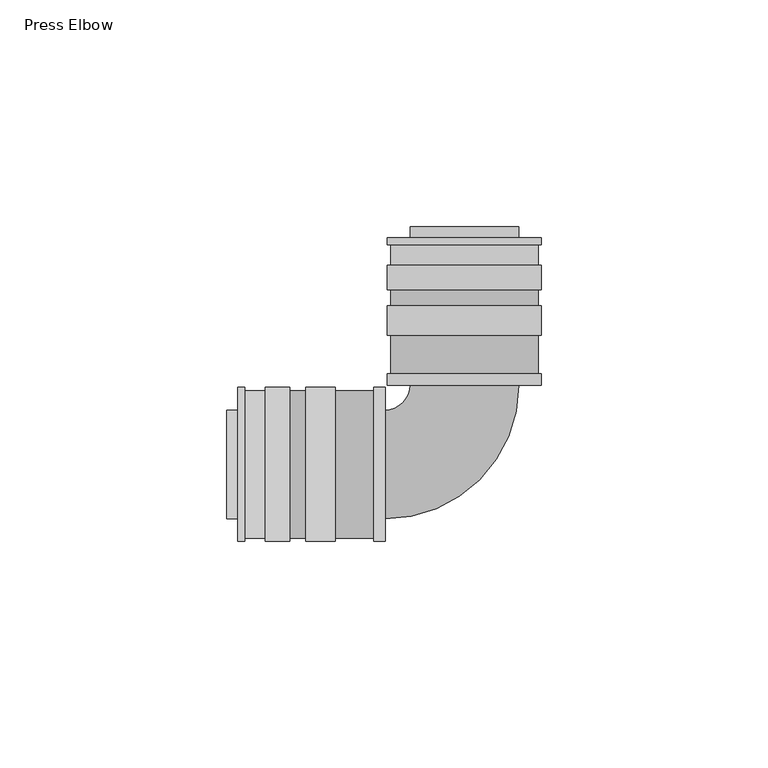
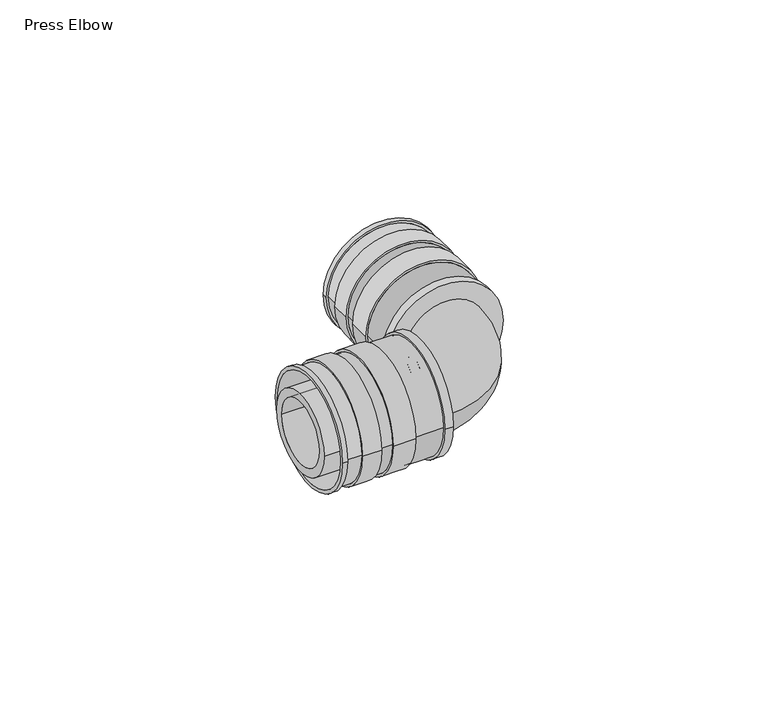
"""IFC4 building model written with IfcOpenShell, lengths in millimetres: pipe fitting geometry, Press Elbow : Superpipe Press Elbow."""

import ifcopenshell
import ifcopenshell.guid

model = None  # the IFC model being written
_history = None  # IfcOwnerHistory: only IFC2X3 demands one
_inside = {}  # id of a spatial element -> (the spatial element, [elements in it])
_under = {}  # id of a project, library or spatial element -> (it, [spatial elements below it])
_declared = {}  # id of a project -> (the project, [libraries it declares])
_typed = {}  # id of a type object -> (the type object, [elements of that type])
_made_of = {}  # id of a material, layer set ... -> (it, [elements and type objects made of it])


def new_model(schema):
    """Start an empty IFC model of exactly this schema.

    Asked for "IFC4X3", IfcOpenShell would pick the latest addendum, in which some entities
    have other attributes; the version numbers below select the first issue.
    IFC2X3 requires an IfcOwnerHistory on every rooted entity: one is made here for all.
    """
    global model, _history
    if schema == "IFC4X3":
        model = ifcopenshell.file(schema_version=(4, 3, 0, 0))
    else:
        model = ifcopenshell.file(schema=schema)
    _inside.clear()
    _under.clear()
    _declared.clear()
    _typed.clear()
    _made_of.clear()
    _history = None
    if model.schema == "IFC2X3":
        org = make("IfcOrganization", Name="unknown")
        user = make(
            "IfcPersonAndOrganization",
            ThePerson=make("IfcPerson", FamilyName="unknown"),
            TheOrganization=org,
        )
        app = make(
            "IfcApplication",
            ApplicationDeveloper=org,
            Version="unknown",
            ApplicationFullName="unknown",
            ApplicationIdentifier="unknown",
        )
        _history = make(
            "IfcOwnerHistory",
            OwningUser=user,
            OwningApplication=app,
            ChangeAction="ADDED",
            CreationDate=0,
        )
    return model


def make(cls, **values):
    """One entity of the class cls with the attributes given. An attribute that is None is left unset."""
    return model.create_entity(
        cls, **{name: value for name, value in values.items() if value is not None}
    )


def rooted(cls, **values):
    """An entity with a GlobalId (a new one), such as an element, a storey or a relation."""
    return make(cls, GlobalId=ifcopenshell.guid.new(), OwnerHistory=_history, **values)


def si_unit(unit_type, name, prefix=None):
    """IfcSIUnit, for example si_unit("LENGTHUNIT", "METRE", prefix="MILLI")."""
    return make("IfcSIUnit", UnitType=unit_type, Prefix=prefix, Name=name)


def assignment(units):
    """IfcUnitAssignment: the units of a project."""
    return None if units is None else make("IfcUnitAssignment", Units=units)


def point(xyz):
    """IfcCartesianPoint."""
    return None if xyz is None else make("IfcCartesianPoint", Coordinates=xyz)


def direction(xyz):
    """IfcDirection."""
    return None if xyz is None else make("IfcDirection", DirectionRatios=xyz)


def frame(location, z_axis=None, x_axis=None):
    """IfcAxis2Placement3D, a coordinate frame: its origin and axes. An axis left out is left unset."""
    return make(
        "IfcAxis2Placement3D",
        Location=point(location),
        Axis=direction(z_axis),
        RefDirection=direction(x_axis),
    )


def frame_2d(location, x_axis=None):
    """IfcAxis2Placement2D, a coordinate frame in the plane: its origin and x axis."""
    return make(
        "IfcAxis2Placement2D", Location=point(location), RefDirection=direction(x_axis)
    )


def origin():
    """The frame at (0, 0, 0) with its axes left unset."""
    return frame((0.0, 0.0, 0.0))


def origin_2d():
    """The frame at (0, 0) in the plane with its x axis left unset."""
    return frame_2d((0.0, 0.0))


def place(relative_to, where):
    """IfcLocalPlacement: puts the frame where relative to a parent placement (None: the world)."""
    return make(
        "IfcLocalPlacement", PlacementRelTo=relative_to, RelativePlacement=where
    )


def context(
    kind, dimensions, precision=None, world=None, true_north=None, identifier=None
):
    """IfcGeometricRepresentationContext, for example the 3D "Model" context."""
    return make(
        "IfcGeometricRepresentationContext",
        ContextIdentifier=identifier,
        ContextType=kind,
        CoordinateSpaceDimension=dimensions,
        Precision=precision,
        WorldCoordinateSystem=world,
        TrueNorth=true_north,
    )


def project(units=None, contexts=None):
    """IfcProject with its units and contexts."""
    return rooted(
        "IfcProject",
        Name="project",
        RepresentationContexts=contexts,
        UnitsInContext=assignment(units),
    )


def spatial(cls, under=None, at=None, **own):
    """A site, building, storey or space (cls), placed at a placement, below another one or the project."""
    s = rooted(cls, ObjectPlacement=at, **own)
    if under is not None:
        _under.setdefault(under.id(), (under, []))[1].append(s)
    return s


def polyline(points):
    """IfcPolyline through the points."""
    return make("IfcPolyline", Points=[point(p) for p in points])


def circle_curve(where, radius):
    """IfcCircle in the frame where."""
    return make("IfcCircle", Position=where, Radius=radius)


def ellipse_curve(where, semi_axis1, semi_axis2):
    """IfcEllipse in the frame where."""
    return make(
        "IfcEllipse", Position=where, SemiAxis1=semi_axis1, SemiAxis2=semi_axis2
    )


def trimmed(basis, trim1, trim2, sense, master):
    """IfcTrimmedCurve: the piece of a basis curve between two trims."""
    return make(
        "IfcTrimmedCurve",
        BasisCurve=basis,
        Trim1=trim1,
        Trim2=trim2,
        SenseAgreement=sense,
        MasterRepresentation=master,
    )


def segment(curve, same_sense, transition):
    """IfcCompositeCurveSegment."""
    return make(
        "IfcCompositeCurveSegment",
        Transition=transition,
        SameSense=same_sense,
        ParentCurve=curve,
    )


def composite_curve(segments, self_intersect=None):
    """IfcCompositeCurve: segments joined end to end."""
    return make("IfcCompositeCurve", Segments=segments, SelfIntersect=self_intersect)


def outline(outer, holes=None, kind="AREA"):
    """IfcArbitraryClosedProfileDef: a profile drawn as a closed curve; with holes, ...WithVoids."""
    if holes is None:
        return make("IfcArbitraryClosedProfileDef", ProfileType=kind, OuterCurve=outer)
    return make(
        "IfcArbitraryProfileDefWithVoids",
        ProfileType=kind,
        OuterCurve=outer,
        InnerCurves=holes,
    )


def extrude(swept, where, along, depth):
    """IfcExtrudedAreaSolid: the profile swept, set in the frame where, extruded along a direction by depth."""
    return make(
        "IfcExtrudedAreaSolid",
        SweptArea=swept,
        Position=where,
        ExtrudedDirection=direction(along),
        Depth=depth,
    )


def shape(context_of_items, identifier, shape_type, items):
    """IfcShapeRepresentation: the items that make up one representation, for example the "Body"."""
    return make(
        "IfcShapeRepresentation",
        ContextOfItems=context_of_items,
        RepresentationIdentifier=identifier,
        RepresentationType=shape_type,
        Items=items,
    )


def source(mapping_origin, context_of_items, identifier, shape_type, items):
    """IfcRepresentationMap: a shape defined once, which mapped items show again and again."""
    return make(
        "IfcRepresentationMap",
        MappingOrigin=mapping_origin,
        MappedRepresentation=shape(context_of_items, identifier, shape_type, items),
    )


def transform(
    local_origin,
    x_axis=None,
    y_axis=None,
    z_axis=None,
    scale=None,
    scale2=None,
    scale3=None,
    uniform=True,
):
    """IfcCartesianTransformationOperator3D, or its non-uniform kind. x_axis, y_axis, z_axis: its Axis1, 2, 3."""
    if uniform:
        return make(
            "IfcCartesianTransformationOperator3D",
            Axis1=direction(x_axis),
            Axis2=direction(y_axis),
            LocalOrigin=point(local_origin),
            Scale=scale,
            Axis3=direction(z_axis),
        )
    return make(
        "IfcCartesianTransformationOperator3DnonUniform",
        Axis1=direction(x_axis),
        Axis2=direction(y_axis),
        LocalOrigin=point(local_origin),
        Scale=scale,
        Axis3=direction(z_axis),
        Scale2=scale2,
        Scale3=scale3,
    )


def mapped(mapping_source, mapping_target):
    """IfcMappedItem: shows the shape of a source again, moved by a transform."""
    return make(
        "IfcMappedItem", MappingSource=mapping_source, MappingTarget=mapping_target
    )


def made_of(thing, what):
    """Note that an element or type object is made of a material, layer set ...; save() writes the relation."""
    if what is not None:
        _made_of.setdefault(what.id(), (what, []))[1].append(thing)
    return thing


def element(
    cls,
    number,
    at=None,
    inside=None,
    cuts=None,
    type_object=None,
    material=None,
    context=None,
    identifier="Body",
    shape_type=None,
    held_by="IfcProductDefinitionShape",
    body=None,
    shapes=None,
    **own,
):
    """One element of the class cls, such as IfcWall. Its Tag is "e" and its number.

    at: its placement. inside: the storey or other place that contains it. cuts: it is an
    opening in that element (IfcRelVoidsElement). A single representation is given by context,
    identifier, shape_type and body (its items); several are given by shapes. held_by: the class
    of the entity that holds the representations. save() writes the other relations.
    """
    e = rooted(cls, Tag="e%d" % number, ObjectPlacement=at, **own)
    if body is not None:
        shapes = [shape(context, identifier, shape_type, body)]
    if shapes is not None:
        e.Representation = make(held_by, Representations=shapes)
    if inside is not None:
        _inside.setdefault(inside.id(), (inside, []))[1].append(e)
    if cuts is not None:
        rooted(
            "IfcRelVoidsElement", RelatingBuildingElement=cuts, RelatedOpeningElement=e
        )
    if type_object is not None:
        _typed.setdefault(type_object.id(), (type_object, []))[1].append(e)
    return made_of(e, material)


def aggregate(whole, parts):
    """IfcRelAggregates: a whole, such as a stair, and the parts it consists of."""
    return rooted("IfcRelAggregates", RelatingObject=whole, RelatedObjects=parts)


def save(model, path):
    """Write the relations noted so far, then the file.

    IfcRelAggregates (storeys below a building ...), IfcRelContainedInSpatialStructure (elements
    in a storey), IfcRelDefinesByType, IfcRelAssociatesMaterial and IfcRelDeclares: one each for
    every whole, place, type object, material and project.
    """
    for whole, parts in _under.values():
        aggregate(whole, parts)
    for where, things in _inside.values():
        rooted(
            "IfcRelContainedInSpatialStructure",
            RelatedElements=things,
            RelatingStructure=where,
        )
    for kind, things in _typed.values():
        rooted("IfcRelDefinesByType", RelatedObjects=things, RelatingType=kind)
    for what, things in _made_of.values():
        rooted("IfcRelAssociatesMaterial", RelatedObjects=things, RelatingMaterial=what)
    for by, libraries in _declared.values():
        rooted("IfcRelDeclares", RelatingContext=by, RelatedDefinitions=libraries)
    model.write(path)


def plane_surface(at):
    """IfcPlane: the flat surface through the origin of the frame at, square to its z axis."""
    return make("IfcPlane", Position=at)


def cylinder_surface(at, radius):
    """IfcCylindricalSurface: all points at the distance radius from the z axis of the frame at."""
    return make("IfcCylindricalSurface", Position=at, Radius=radius)


def revolved_surface(curve, axis_point, axis_direction):
    """IfcSurfaceOfRevolution: the curve turned about the line through axis_point along axis_direction."""
    return make(
        "IfcSurfaceOfRevolution",
        SweptCurve=make("IfcArbitraryOpenProfileDef", ProfileType="CURVE", Curve=curve),
        AxisPosition=make("IfcAxis1Placement", Location=point(axis_point), Axis=direction(axis_direction)),
    )


def advanced_brep(points, edges, surfaces, faces):
    """IfcAdvancedBrep: a solid bounded by faces that lie on surfaces and meet in shared edges.

    An edge is (start, end): straight between two places in points (the first is 0);
    or (start, end, curve); or (start, end, curve, False) where it runs against its curve.
    A face is (place in surfaces, loops), or (place, loops, False) where it looks against
    its surface's normal. A loop lists edges by number (the first is 1), with a minus sign
    where the edge is run from its end to its start. The first loop is the outer one.
    """
    corners = [point(p) for p in points]
    vertices = [make("IfcVertexPoint", VertexGeometry=c) for c in corners]
    made = []
    for start, end, *more in edges:
        made.append(
            make(
                "IfcEdgeCurve",
                EdgeStart=vertices[start],
                EdgeEnd=vertices[end],
                EdgeGeometry=more[0] if more else make("IfcPolyline", Points=[corners[start], corners[end]]),
                SameSense=more[1] if len(more) > 1 else True,
            )
        )
    hull = []
    for where, loops, *sense in faces:
        bounds = []
        for j, loop in enumerate(loops):
            ring = [make("IfcOrientedEdge", EdgeElement=made[abs(k) - 1], Orientation=k > 0) for k in loop]
            bounds.append(
                make(
                    "IfcFaceOuterBound" if j == 0 else "IfcFaceBound",
                    Bound=make("IfcEdgeLoop", EdgeList=ring),
                    Orientation=True,
                )
            )
        hull.append(make("IfcAdvancedFace", Bounds=bounds, FaceSurface=surfaces[where], SameSense=sense[0] if sense else True))
    return make("IfcAdvancedBrep", Outer=make("IfcClosedShell", CfsFaces=hull))


def press_elbow_a54f810e(model_context):
    return source(origin(), model_context, "Body", "SolidModel", [
        advanced_brep(
        [(-16.3, 20.0, 0.0), (16.3, 20.0, 0.0), (16.0, 20.0, 0.0), (-16.0, 20.0, 0.0), (17.0, 50.0, 0.0), (-17.0, 50.0, 0.0), (16.0, 50.0, 0.0), (-16.0, 50.0, 0.0), (17.0, 48.5, 0.0), (-17.0, 48.5, 0.0), (17.0, 28.5, 0.0), (-17.0, 28.5, 0.0), (-17.0, 35.0, 0.0), (17.0, 35.0, 0.0), (17.0, 38.5, 0.0), (-17.0, 38.5, 0.0), (-17.0, 44.0, 0.0), (17.0, 44.0, 0.0), (16.3, 28.5, 0.0), (-16.3, 28.5, 0.0), (16.3, 35.0, 0.0), (-16.3, 35.0, 0.0), (16.3, 38.5, 0.0), (-16.3, 38.5, 0.0), (-16.3, 48.5, 0.0), (16.3, 48.5, 0.0), (-16.3, 44.0, 0.0), (16.3, 44.0, 0.0)],
        [
            (0, 1, circle_curve(frame((0.0, 20.0, 0.0), z_axis=(0.0, -1.0, 0.0), x_axis=(-1.0, 0.0, 0.0)), 16.3)),
            (1, 0, circle_curve(frame((0.0, 20.0, 0.0), z_axis=(0.0, -1.0, 0.0), x_axis=(-1.0, 0.0, 0.0)), 16.3)),
            (2, 3, circle_curve(frame((0.0, 20.0, 0.0), z_axis=(0.0, 1.0, 0.0), x_axis=(-1.0, 0.0, 0.0)), 16.0)),
            (3, 2, circle_curve(frame((0.0, 20.0, 0.0), z_axis=(0.0, 1.0, 0.0), x_axis=(-1.0, 0.0, 0.0)), 16.0)),
            (4, 5, circle_curve(frame((0.0, 50.0, 0.0), z_axis=(0.0, 1.0, 0.0), x_axis=(-1.0, 0.0, 0.0)), 17.0)),
            (5, 4, circle_curve(frame((0.0, 50.0, 0.0), z_axis=(0.0, 1.0, 0.0), x_axis=(-1.0, 0.0, 0.0)), 17.0)),
            (6, 7, circle_curve(frame((0.0, 50.0, 0.0), z_axis=(0.0, -1.0, 0.0), x_axis=(-1.0, 0.0, 0.0)), 16.0)),
            (7, 6, circle_curve(frame((0.0, 50.0, 0.0), z_axis=(0.0, -1.0, 0.0), x_axis=(-1.0, 0.0, 0.0)), 16.0)),
            (4, 8),
            (8, 9, circle_curve(frame((0.0, 48.5, 0.0), z_axis=(0.0, 1.0, 0.0), x_axis=(-1.0, 0.0, 0.0)), 17.0)),
            (9, 5),
            (10, 11, circle_curve(frame((0.0, 28.5, 0.0), z_axis=(0.0, 1.0, 0.0), x_axis=(-1.0, 0.0, 0.0)), 17.0)),
            (11, 12),
            (12, 13, circle_curve(frame((0.0, 35.0, 0.0), z_axis=(0.0, -1.0, 0.0), x_axis=(-1.0, 0.0, 0.0)), 17.0)),
            (13, 10),
            (14, 15, circle_curve(frame((0.0, 38.5, 0.0), z_axis=(0.0, 1.0, 0.0), x_axis=(-1.0, 0.0, 0.0)), 17.0)),
            (15, 16),
            (16, 17, circle_curve(frame((0.0, 44.0, 0.0), z_axis=(0.0, -1.0, 0.0), x_axis=(-1.0, 0.0, 0.0)), 17.0)),
            (17, 14),
            (9, 8, circle_curve(frame((0.0, 48.5, 0.0), z_axis=(0.0, 1.0, 0.0), x_axis=(-1.0, 0.0, 0.0)), 17.0)),
            (11, 10, circle_curve(frame((0.0, 28.5, 0.0), z_axis=(0.0, 1.0, 0.0), x_axis=(-1.0, 0.0, 0.0)), 17.0)),
            (13, 12, circle_curve(frame((0.0, 35.0, 0.0), z_axis=(0.0, -1.0, 0.0), x_axis=(-1.0, 0.0, 0.0)), 17.0)),
            (15, 14, circle_curve(frame((0.0, 38.5, 0.0), z_axis=(0.0, 1.0, 0.0), x_axis=(-1.0, 0.0, 0.0)), 17.0)),
            (17, 16, circle_curve(frame((0.0, 44.0, 0.0), z_axis=(0.0, -1.0, 0.0), x_axis=(-1.0, 0.0, 0.0)), 17.0)),
            (3, 7),
            (6, 2),
            (18, 19, circle_curve(frame((0.0, 28.5, 0.0), z_axis=(0.0, 1.0, 0.0), x_axis=(-1.0, 0.0, 0.0)), 16.3)),
            (19, 18, circle_curve(frame((0.0, 28.5, 0.0), z_axis=(0.0, 1.0, 0.0), x_axis=(-1.0, 0.0, 0.0)), 16.3)),
            (18, 1),
            (0, 19),
            (20, 21, circle_curve(frame((0.0, 35.0, 0.0), z_axis=(0.0, -1.0, 0.0), x_axis=(-1.0, 0.0, 0.0)), 16.3)),
            (21, 20, circle_curve(frame((0.0, 35.0, 0.0), z_axis=(0.0, -1.0, 0.0), x_axis=(-1.0, 0.0, 0.0)), 16.3)),
            (22, 23, circle_curve(frame((0.0, 38.5, 0.0), z_axis=(0.0, 1.0, 0.0), x_axis=(-1.0, 0.0, 0.0)), 16.3)),
            (23, 22, circle_curve(frame((0.0, 38.5, 0.0), z_axis=(0.0, 1.0, 0.0), x_axis=(-1.0, 0.0, 0.0)), 16.3)),
            (21, 23),
            (22, 20),
            (24, 25, circle_curve(frame((0.0, 48.5, 0.0), z_axis=(0.0, 1.0, 0.0), x_axis=(1.0, 0.0, 0.0)), 16.3)),
            (25, 24, circle_curve(frame((0.0, 48.5, 0.0), z_axis=(0.0, 1.0, 0.0), x_axis=(1.0, 0.0, 0.0)), 16.3)),
            (26, 27, circle_curve(frame((0.0, 44.0, 0.0), z_axis=(0.0, -1.0, 0.0), x_axis=(1.0, 0.0, 0.0)), 16.3)),
            (27, 26, circle_curve(frame((0.0, 44.0, 0.0), z_axis=(0.0, -1.0, 0.0), x_axis=(1.0, 0.0, 0.0)), 16.3)),
            (25, 27),
            (26, 24),
        ],
        [
            plane_surface(frame((0.0, 20.0, 0.0), z_axis=(0.0, -1.0, 0.0), x_axis=(0.0, 0.0, 1.0))),
            plane_surface(frame((0.0, 50.0, 0.0), z_axis=(0.0, 1.0, 0.0), x_axis=(0.0, 0.0, 1.0))),
            cylinder_surface(frame((0.0, 20.0, 0.0), z_axis=(0.0, -1.0, 0.0), x_axis=(-1.0, 0.0, 0.0)), 17.0),
            revolved_surface(polyline([(-16.0, 50.0, 0.0), (-16.0, 20.0, 0.0)]), (0.0, 20.0, 0.0), (0.0, 1.0, 0.0)),
            plane_surface(frame((0.0, 28.5, 0.0), z_axis=(0.0, -1.0, 0.0), x_axis=(0.0, 0.0, 1.0))),
            cylinder_surface(frame((0.0, 20.0, 0.0), z_axis=(0.0, 1.0, 0.0), x_axis=(-1.0, 0.0, 0.0)), 16.3),
            plane_surface(frame((0.0, 35.0, 0.0), z_axis=(0.0, 1.0, 0.0), x_axis=(0.0, 0.0, 1.0))),
            plane_surface(frame((0.0, 38.5, 0.0), z_axis=(0.0, -1.0, 0.0), x_axis=(0.0, 0.0, 1.0))),
            cylinder_surface(frame((0.0, 35.0, 0.0), z_axis=(0.0, 1.0, 0.0), x_axis=(-1.0, 0.0, 0.0)), 16.3),
            plane_surface(frame((0.0, 48.5, 0.0), z_axis=(0.0, -1.0, 0.0), x_axis=(0.0, 0.0, 1.0))),
            plane_surface(frame((0.0, 44.0, 0.0), z_axis=(0.0, 1.0, 0.0), x_axis=(0.0, 0.0, 1.0))),
            cylinder_surface(frame((0.0, 48.5, 0.0), z_axis=(0.0, -1.0, 0.0), x_axis=(1.0, 0.0, 0.0)), 16.3),
        ],
        [
            (0, [[1, 2], [3, 4]]),
            (1, [[5, 6], [7, 8]]),
            (2, [[-5, 9, 10, 11]]),
            (2, [[12, 13, 14, 15]]),
            (2, [[16, 17, 18, 19]]),
            (2, [[-6, -11, 20, -9]]),
            (2, [[21, -15, 22, -13]]),
            (2, [[23, -19, 24, -17]]),
            (3, [[-4, 25, -7, 26]]),
            (3, [[-3, -26, -8, -25]]),
            (4, [[-12, -21], [27, 28]]),
            (5, [[-27, 29, -1, 30]]),
            (5, [[-28, -30, -2, -29]]),
            (6, [[-14, -22], [31, 32]]),
            (7, [[-16, -23], [33, 34]]),
            (8, [[-32, 35, -33, 36]]),
            (8, [[-31, -36, -34, -35]]),
            (9, [[-10, -20], [37, 38]]),
            (10, [[-18, -24], [39, 40]]),
            (11, [[-38, 41, -39, 42]]),
            (11, [[-37, -42, -40, -41]]),
        ],
    ),
        advanced_brep(
        [(-20.0, -16.3, 0.0), (-20.0, 16.3, 0.0), (-20.0, 16.0, 0.0), (-20.0, -16.0, 0.0), (-50.0, 17.0, 0.0), (-50.0, -17.0, 0.0), (-50.0, 16.0, 0.0), (-50.0, -16.0, 0.0), (-48.5, 17.0, 0.0), (-48.5, -17.0, 0.0), (-35.0, -17.0, 0.0), (-35.0, 17.0, 0.0), (-28.5, 17.0, 0.0), (-28.5, -17.0, 0.0), (-38.5, 17.0, 0.0), (-38.5, -17.0, 0.0), (-44.0, -17.0, 0.0), (-44.0, 17.0, 0.0), (-35.0, 16.3, 0.0), (-35.0, -16.3, 0.0), (-38.5, 16.3, 0.0), (-38.5, -16.3, 0.0), (-48.5, -16.3, 0.0), (-48.5, 16.3, 0.0), (-44.0, -16.3, 0.0), (-44.0, 16.3, 0.0), (-28.5, 16.3, 0.0), (-28.5, -16.3, 0.0)],
        [
            (0, 1, circle_curve(frame((-20.0, 0.0, 0.0), z_axis=(1.0, 0.0, 0.0), x_axis=(0.0, -1.0, 0.0)), 16.3)),
            (1, 0, circle_curve(frame((-20.0, 0.0, 0.0), z_axis=(1.0, 0.0, 0.0), x_axis=(0.0, -1.0, 0.0)), 16.3)),
            (2, 3, circle_curve(frame((-20.0, 0.0, 0.0), z_axis=(-1.0, 0.0, 0.0), x_axis=(0.0, -1.0, 0.0)), 16.0)),
            (3, 2, circle_curve(frame((-20.0, 0.0, 0.0), z_axis=(-1.0, 0.0, 0.0), x_axis=(0.0, -1.0, 0.0)), 16.0)),
            (4, 5, circle_curve(frame((-50.0, 0.0, 0.0), z_axis=(-1.0, 0.0, 0.0), x_axis=(0.0, -1.0, 0.0)), 17.0)),
            (5, 4, circle_curve(frame((-50.0, 0.0, 0.0), z_axis=(-1.0, 0.0, 0.0), x_axis=(0.0, -1.0, 0.0)), 17.0)),
            (6, 7, circle_curve(frame((-50.0, 0.0, 0.0), z_axis=(1.0, 0.0, 0.0), x_axis=(0.0, -1.0, 0.0)), 16.0)),
            (7, 6, circle_curve(frame((-50.0, 0.0, 0.0), z_axis=(1.0, 0.0, 0.0), x_axis=(0.0, -1.0, 0.0)), 16.0)),
            (3, 7),
            (6, 2),
            (4, 8),
            (8, 9, circle_curve(frame((-48.5, 0.0, 0.0), z_axis=(-1.0, 0.0, 0.0), x_axis=(0.0, -1.0, 0.0)), 17.0)),
            (9, 5),
            (10, 11, circle_curve(frame((-35.0, 0.0, 0.0), z_axis=(1.0, 0.0, 0.0), x_axis=(0.0, -1.0, 0.0)), 17.0)),
            (11, 12),
            (12, 13, circle_curve(frame((-28.5, 0.0, 0.0), z_axis=(-1.0, 0.0, 0.0), x_axis=(0.0, -1.0, 0.0)), 17.0)),
            (13, 10),
            (14, 15, circle_curve(frame((-38.5, 0.0, 0.0), z_axis=(-1.0, 0.0, 0.0), x_axis=(0.0, -1.0, 0.0)), 17.0)),
            (15, 16),
            (16, 17, circle_curve(frame((-44.0, 0.0, 0.0), z_axis=(1.0, 0.0, 0.0), x_axis=(0.0, -1.0, 0.0)), 17.0)),
            (17, 14),
            (9, 8, circle_curve(frame((-48.5, 0.0, 0.0), z_axis=(-1.0, 0.0, 0.0), x_axis=(0.0, -1.0, 0.0)), 17.0)),
            (11, 10, circle_curve(frame((-35.0, 0.0, 0.0), z_axis=(1.0, 0.0, 0.0), x_axis=(0.0, -1.0, 0.0)), 17.0)),
            (13, 12, circle_curve(frame((-28.5, 0.0, 0.0), z_axis=(-1.0, 0.0, 0.0), x_axis=(0.0, -1.0, 0.0)), 17.0)),
            (15, 14, circle_curve(frame((-38.5, 0.0, 0.0), z_axis=(-1.0, 0.0, 0.0), x_axis=(0.0, -1.0, 0.0)), 17.0)),
            (17, 16, circle_curve(frame((-44.0, 0.0, 0.0), z_axis=(1.0, 0.0, 0.0), x_axis=(0.0, -1.0, 0.0)), 17.0)),
            (18, 19, circle_curve(frame((-35.0, 0.0, 0.0), z_axis=(1.0, 0.0, 0.0), x_axis=(0.0, -1.0, 0.0)), 16.3)),
            (19, 18, circle_curve(frame((-35.0, 0.0, 0.0), z_axis=(1.0, 0.0, 0.0), x_axis=(0.0, -1.0, 0.0)), 16.3)),
            (20, 21, circle_curve(frame((-38.5, 0.0, 0.0), z_axis=(-1.0, 0.0, 0.0), x_axis=(0.0, -1.0, 0.0)), 16.3)),
            (21, 20, circle_curve(frame((-38.5, 0.0, 0.0), z_axis=(-1.0, 0.0, 0.0), x_axis=(0.0, -1.0, 0.0)), 16.3)),
            (19, 21),
            (20, 18),
            (22, 23, circle_curve(frame((-48.5, 0.0, 0.0), z_axis=(-1.0, 0.0, 0.0), x_axis=(0.0, 1.0, 0.0)), 16.3)),
            (23, 22, circle_curve(frame((-48.5, 0.0, 0.0), z_axis=(-1.0, 0.0, 0.0), x_axis=(0.0, 1.0, 0.0)), 16.3)),
            (24, 25, circle_curve(frame((-44.0, 0.0, 0.0), z_axis=(1.0, 0.0, 0.0), x_axis=(0.0, 1.0, 0.0)), 16.3)),
            (25, 24, circle_curve(frame((-44.0, 0.0, 0.0), z_axis=(1.0, 0.0, 0.0), x_axis=(0.0, 1.0, 0.0)), 16.3)),
            (23, 25),
            (24, 22),
            (26, 27, circle_curve(frame((-28.5, 0.0, 0.0), z_axis=(-1.0, 0.0, 0.0), x_axis=(0.0, -1.0, 0.0)), 16.3)),
            (27, 26, circle_curve(frame((-28.5, 0.0, 0.0), z_axis=(-1.0, 0.0, 0.0), x_axis=(0.0, -1.0, 0.0)), 16.3)),
            (26, 1),
            (0, 27),
        ],
        [
            plane_surface(frame((-20.0, 0.0, 0.0), z_axis=(1.0, 0.0, 0.0), x_axis=(0.0, 0.0, 1.0))),
            plane_surface(frame((-50.0, 0.0, 0.0), z_axis=(-1.0, 0.0, 0.0), x_axis=(0.0, 0.0, 1.0))),
            revolved_surface(polyline([(-50.0, -16.0, 0.0), (-20.0, -16.0, 0.0)]), (-20.0, 0.0, 0.0), (-1.0, 0.0, 0.0)),
            cylinder_surface(frame((-20.0, 0.0, 0.0), z_axis=(1.0, 0.0, 0.0), x_axis=(0.0, -1.0, 0.0)), 17.0),
            plane_surface(frame((-35.0, 0.0, 0.0), z_axis=(-1.0, 0.0, 0.0), x_axis=(0.0, 0.0, 1.0))),
            plane_surface(frame((-38.5, 0.0, 0.0), z_axis=(1.0, 0.0, 0.0), x_axis=(0.0, 0.0, 1.0))),
            cylinder_surface(frame((-35.0, 0.0, 0.0), z_axis=(-1.0, 0.0, 0.0), x_axis=(0.0, -1.0, 0.0)), 16.3),
            plane_surface(frame((-48.5, 0.0, 0.0), z_axis=(1.0, 0.0, 0.0), x_axis=(0.0, 0.0, 1.0))),
            plane_surface(frame((-44.0, 0.0, 0.0), z_axis=(-1.0, 0.0, 0.0), x_axis=(0.0, 0.0, 1.0))),
            cylinder_surface(frame((-48.5, 0.0, 0.0), z_axis=(1.0, 0.0, 0.0), x_axis=(0.0, 1.0, 0.0)), 16.3),
            plane_surface(frame((-28.5, 0.0, 0.0), z_axis=(1.0, 0.0, 0.0), x_axis=(0.0, 0.0, 1.0))),
            cylinder_surface(frame((-20.0, 0.0, 0.0), z_axis=(-1.0, 0.0, 0.0), x_axis=(0.0, -1.0, 0.0)), 16.3),
        ],
        [
            (0, [[1, 2], [3, 4]]),
            (1, [[5, 6], [7, 8]]),
            (2, [[-4, 9, -7, 10]]),
            (2, [[-3, -10, -8, -9]]),
            (3, [[-5, 11, 12, 13]]),
            (3, [[14, 15, 16, 17]]),
            (3, [[18, 19, 20, 21]]),
            (3, [[-6, -13, 22, -11]]),
            (3, [[23, -17, 24, -15]]),
            (3, [[25, -21, 26, -19]]),
            (4, [[-14, -23], [27, 28]]),
            (5, [[-18, -25], [29, 30]]),
            (6, [[-28, 31, -29, 32]]),
            (6, [[-27, -32, -30, -31]]),
            (7, [[-12, -22], [33, 34]]),
            (8, [[-20, -26], [35, 36]]),
            (9, [[-34, 37, -35, 38]]),
            (9, [[-33, -38, -36, -37]]),
            (10, [[-16, -24], [39, 40]]),
            (11, [[-39, 41, -1, 42]]),
            (11, [[-40, -42, -2, -41]]),
        ],
    ),
        extrude(outline(composite_curve([segment(trimmed(circle_curve(origin_2d(), 12.0), [point((0.0, 12.0))], [point((0.0, -12.0))], False, "CARTESIAN"), True, "CONTINUOUS"), segment(trimmed(circle_curve(origin_2d(), 12.0), [point((0.0, -12.0))], [point((0.0, 12.0))], False, "CARTESIAN"), True, "CONTINUOUS")], self_intersect=False), holes=[composite_curve([segment(trimmed(circle_curve(origin_2d(), 9.5), [point((0.0, 9.5))], [point((0.0, -9.5))], True, "CARTESIAN"), True, "CONTINUOUS"), segment(trimmed(circle_curve(origin_2d(), 9.5), [point((0.0, -9.5))], [point((0.0, 9.5))], True, "CARTESIAN"), True, "CONTINUOUS")], self_intersect=False)]), frame((0.0, 20.0, 0.0), z_axis=(0.0, 1.0, 0.0), x_axis=(0.0, 0.0, 1.0)), (0.0, 0.0, 1.0), 32.5),
        extrude(outline(composite_curve([segment(trimmed(circle_curve(origin_2d(), 17.0), [point((0.0, 17.0))], [point((0.0, -17.0))], False, "CARTESIAN"), True, "CONTINUOUS"), segment(trimmed(circle_curve(origin_2d(), 17.0), [point((0.0, -17.0))], [point((0.0, 17.0))], False, "CARTESIAN"), True, "CONTINUOUS")], self_intersect=False), holes=[composite_curve([segment(trimmed(circle_curve(origin_2d(), 9.5), [point((0.0, 9.5))], [point((0.0, -9.5))], True, "CARTESIAN"), True, "CONTINUOUS"), segment(trimmed(circle_curve(origin_2d(), 9.5), [point((0.0, -9.5))], [point((0.0, 9.5))], True, "CARTESIAN"), True, "CONTINUOUS")], self_intersect=False)]), frame((0.0, 17.5, 0.0), z_axis=(0.0, 1.0, 0.0), x_axis=(0.0, 0.0, 1.0)), (0.0, 0.0, 1.0), 2.5),
        extrude(outline(composite_curve([segment(trimmed(circle_curve(origin_2d(), 17.0), [point((17.0, 0.0))], [point((-17.0, 0.0))], False, "CARTESIAN"), True, "CONTINUOUS"), segment(trimmed(circle_curve(origin_2d(), 17.0), [point((-17.0, 0.0))], [point((17.0, 0.0))], False, "CARTESIAN"), True, "CONTINUOUS")], self_intersect=False), holes=[composite_curve([segment(trimmed(circle_curve(origin_2d(), 9.5), [point((9.5, 0.0))], [point((-9.5, 0.0))], True, "CARTESIAN"), True, "CONTINUOUS"), segment(trimmed(circle_curve(origin_2d(), 9.5), [point((-9.5, 0.0))], [point((9.5, 0.0))], True, "CARTESIAN"), True, "CONTINUOUS")], self_intersect=False)]), frame((-20.0, 0.0, 0.0), z_axis=(1.0, 0.0, 0.0), x_axis=(0.0, 1.0, 0.0)), (0.0, 0.0, 1.0), 2.5),
        extrude(outline(composite_curve([segment(trimmed(circle_curve(origin_2d(), 12.0), [point((12.0, 0.0))], [point((-12.0, 0.0))], False, "CARTESIAN"), True, "CONTINUOUS"), segment(trimmed(circle_curve(origin_2d(), 12.0), [point((-12.0, 0.0))], [point((12.0, 0.0))], False, "CARTESIAN"), True, "CONTINUOUS")], self_intersect=False), holes=[composite_curve([segment(trimmed(circle_curve(origin_2d(), 9.5), [point((9.5, 0.0))], [point((-9.5, 0.0))], True, "CARTESIAN"), True, "CONTINUOUS"), segment(trimmed(circle_curve(origin_2d(), 9.5), [point((-9.5, 0.0))], [point((9.5, 0.0))], True, "CARTESIAN"), True, "CONTINUOUS")], self_intersect=False)]), frame((-52.5, 0.0, 0.0), z_axis=(1.0, 0.0, 0.0), x_axis=(0.0, 1.0, 0.0)), (0.0, 0.0, 1.0), 32.5),
        advanced_brep(
        [(-17.5, -9.5, 0.0), (-17.5, 9.5, 0.0), (9.5, 17.5, 0.0), (-9.5, 17.5, 0.0)],
        [
            (0, 1, circle_curve(frame((-17.5, 0.0, 0.0), z_axis=(-1.0, 0.0, 0.0), x_axis=(0.0, 1.0, 0.0)), 9.5)),
            (1, 0, circle_curve(frame((-17.5, 0.0, 0.0), z_axis=(-1.0, 0.0, 0.0), x_axis=(0.0, 1.0, 0.0)), 9.5)),
            (2, 3, circle_curve(frame((0.0, 17.5, 0.0), z_axis=(0.0, 1.0, 0.0), x_axis=(-1.0, 0.0, 0.0)), 9.5)),
            (3, 2, circle_curve(frame((0.0, 17.5, 0.0), z_axis=(0.0, 1.0, 0.0), x_axis=(-1.0, 0.0, 0.0)), 9.5)),
            (3, 1, circle_curve(frame((-17.5, 17.5, 0.0), z_axis=(0.0, 0.0, -1.0), x_axis=(0.0, -1.0, 0.0)), 8.0)),
            (0, 2, circle_curve(frame((-17.5, 17.5, 0.0), z_axis=(0.0, 0.0, 1.0), x_axis=(0.0, -1.0, 0.0)), 27.0)),
        ],
        [
            plane_surface(frame((-17.5, 0.0, 0.0), z_axis=(-1.0, 0.0, 0.0), x_axis=(0.0, 0.0, 1.0))),
            plane_surface(frame((0.0, 17.5, 0.0), z_axis=(0.0, 1.0, 0.0), x_axis=(0.0, 0.0, 1.0))),
            revolved_surface(trimmed(ellipse_curve(frame((-17.5, 0.0, 0.0), z_axis=(-1.0, 0.0, 0.0), x_axis=(0.0, 1.0, 0.0)), 9.5, 9.5), [point((-17.5, -9.5, 0.0))], [point((-17.5, 9.5, 0.0))], True, "CARTESIAN"), (-17.5, 17.5, 0.0), (0.0, 0.0, 1.0)),
            revolved_surface(trimmed(ellipse_curve(frame((-17.5, 0.0, 0.0), z_axis=(-1.0, 0.0, 0.0), x_axis=(0.0, 1.0, 0.0)), 9.5, 9.5), [point((-17.5, 9.5, 0.0))], [point((-17.5, -9.5, 0.0))], True, "CARTESIAN"), (-17.5, 17.5, 0.0), (0.0, 0.0, 1.0)),
        ],
        [
            (0, [[1, 2]]),
            (1, [[3, 4]]),
            (2, [[5, -1, 6, -4]]),
            (3, [[-6, -2, -5, -3]]),
        ],
    ),
        advanced_brep(
        [(-17.5, -12.0, 0.0), (-17.5, 12.0, 0.0), (12.0, 17.5, 0.0), (-12.0, 17.5, 0.0)],
        [
            (0, 1, circle_curve(frame((-17.5, 0.0, 0.0), z_axis=(-1.0, 0.0, 0.0), x_axis=(0.0, 1.0, 0.0)), 12.0)),
            (1, 0, circle_curve(frame((-17.5, 0.0, 0.0), z_axis=(-1.0, 0.0, 0.0), x_axis=(0.0, 1.0, 0.0)), 12.0)),
            (2, 3, circle_curve(frame((0.0, 17.5, 0.0), z_axis=(0.0, 1.0, 0.0), x_axis=(-1.0, 0.0, 0.0)), 12.0)),
            (3, 2, circle_curve(frame((0.0, 17.5, 0.0), z_axis=(0.0, 1.0, 0.0), x_axis=(-1.0, 0.0, 0.0)), 12.0)),
            (3, 1, circle_curve(frame((-17.5, 17.5, 0.0), z_axis=(0.0, 0.0, -1.0), x_axis=(0.0, -1.0, 0.0)), 5.5)),
            (0, 2, circle_curve(frame((-17.5, 17.5, 0.0), z_axis=(0.0, 0.0, 1.0), x_axis=(0.0, -1.0, 0.0)), 29.5)),
        ],
        [
            plane_surface(frame((-17.5, 0.0, 0.0), z_axis=(-1.0, 0.0, 0.0), x_axis=(0.0, 0.0, 1.0))),
            plane_surface(frame((0.0, 17.5, 0.0), z_axis=(0.0, 1.0, 0.0), x_axis=(0.0, 0.0, 1.0))),
            revolved_surface(trimmed(ellipse_curve(frame((-17.5, 0.0, 0.0), z_axis=(-1.0, 0.0, 0.0), x_axis=(0.0, 1.0, 0.0)), 12.0, 12.0), [point((-17.5, -12.0, 0.0))], [point((-17.5, 12.0, 0.0))], True, "CARTESIAN"), (-17.5, 17.5, 0.0), (0.0, 0.0, 1.0)),
            revolved_surface(trimmed(ellipse_curve(frame((-17.5, 0.0, 0.0), z_axis=(-1.0, 0.0, 0.0), x_axis=(0.0, 1.0, 0.0)), 12.0, 12.0), [point((-17.5, 12.0, 0.0))], [point((-17.5, -12.0, 0.0))], True, "CARTESIAN"), (-17.5, 17.5, 0.0), (0.0, 0.0, 1.0)),
        ],
        [
            (0, [[1, 2]]),
            (1, [[3, 4]]),
            (2, [[5, -1, 6, -4]]),
            (3, [[-6, -2, -5, -3]]),
        ],
    ),
    ])


if __name__ == "__main__":
    model = new_model("IFC4")
    model_context = context("Model", 3, world=origin())
    ifc_project = project(units=[si_unit("LENGTHUNIT", "METRE", prefix="MILLI")], contexts=[model_context])
    site = spatial("IfcSite", under=ifc_project)
    building = spatial("IfcBuilding", under=site)
    placement = place(None, origin())
    press_elbow_shape = press_elbow_a54f810e(model_context)
    element("IfcPipeFitting", 1, ObjectType="Press Elbow : Superpipe Press Elbow", at=placement, inside=building, context=model_context, shape_type="MappedRepresentation", body=[
        mapped(press_elbow_shape, transform((0.0, 0.0, 0.0), x_axis=(1.0, 0.0, 0.0), y_axis=(0.0, 1.0, 0.0), z_axis=(0.0, 0.0, 1.0))),
    ])
    save(model, "model.ifc")
